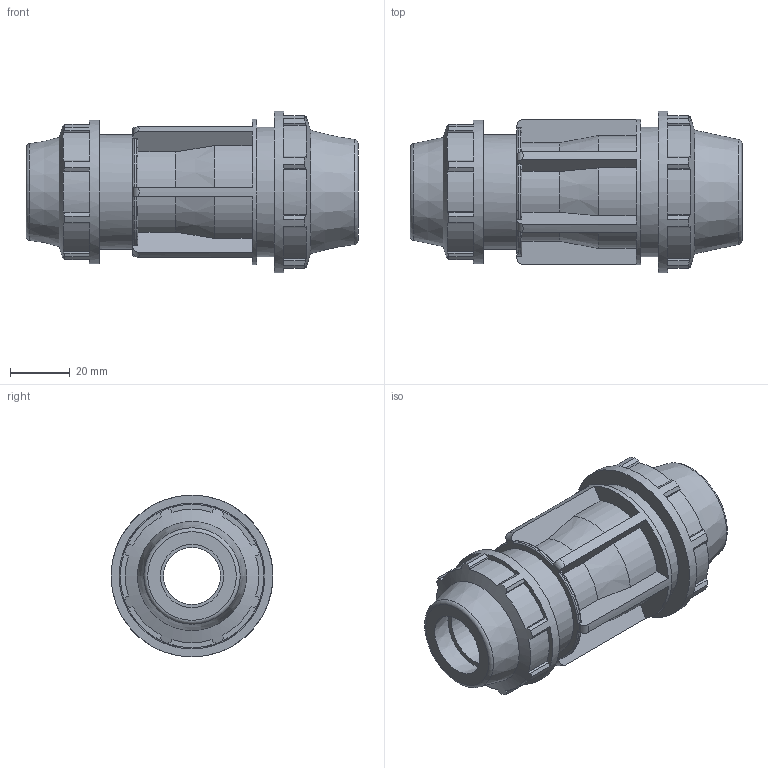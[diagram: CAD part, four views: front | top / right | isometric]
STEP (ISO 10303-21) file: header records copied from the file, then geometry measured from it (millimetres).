
FILE_DESCRIPTION(/* description */ ('PLASSON REDUCING COUPLER 3/4'''' - 1/2'''''),/* implementation_level */ '2;1');
FILE_NAME(/* name */ 'C:\Dropbox\KIMPROJECTS-Inventor 2019\99-16-3568-Processing Inch\ASTM Compression 2021\0711M0\0711M0007005.ipt.stp',/* time_stamp */ '2021-08-26T12:32:29+03:00',/* author */ ('KIM'),/* organization */ (''),/* preprocessor_version */ 'ST-DEVELOPER v17.2',/* originating_system */ 'Autodesk Inventor 2019',/* authorisation */ '');
FILE_SCHEMA (('AUTOMOTIVE_DESIGN { 1 0 10303 214 3 1 1 }'));
Length unit declared in the file: inch
Products named in the file (1): 0711M0007005
Bounding box: 111 x 54.1 x 54.1 mm (x, y, z)
Volume: 94323.4 mm3; surface area: 31536.7 mm2
Topology: 1 solids, 1 shells, 189 faces, 562 edges, 383 vertices
Faces by surface type: plane 114, cylinder 47, cone 14, torus 14
Full cylindrical faces by diameter (mm): 21.2 x1, 26.6 x1, 38.405 x1, 43.282 x1, 48.006 x1, 48.692 x1, 54.102 x1
Entity records: 6809 total; most frequent: CARTESIAN_POINT 1475, ORIENTED_EDGE 1124, DIRECTION 1047, EDGE_CURVE 562, VERTEX_POINT 383, AXIS2_PLACEMENT_3D 375, LINE 297, VECTOR 297
